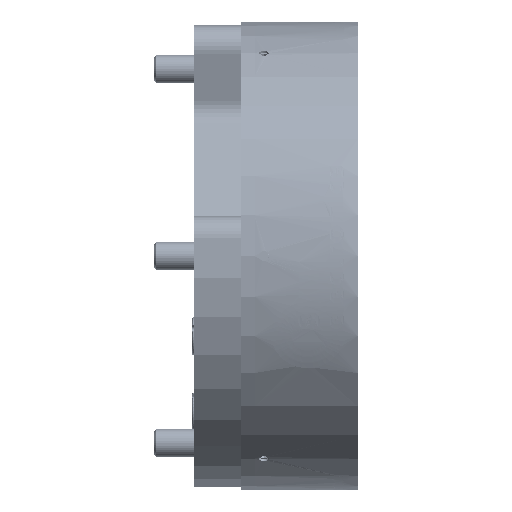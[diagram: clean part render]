
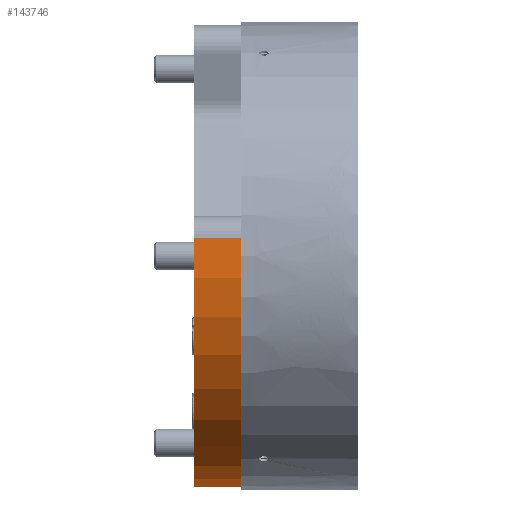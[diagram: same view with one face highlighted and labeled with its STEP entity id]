
A CAD part, front view. The second image highlights one B-rep face of the part: STEP entity #143746.
In plain terms, the highlighted cylindrical face has radius 49.5 mm (diameter 99 mm), a partial arc.
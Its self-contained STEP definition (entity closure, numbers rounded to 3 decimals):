
#6255 = DIRECTION ( 'NONE',  ( 0., -0.707, 0.707 ) ) ;
#9621 = CYLINDRICAL_SURFACE ( 'NONE', #266763, 49.5 ) ;
#28595 = EDGE_CURVE ( 'NONE', #311190, #107195, #87918, .T. ) ;
#70560 = VECTOR ( 'NONE', #255285, 1000. ) ;
#76303 = EDGE_CURVE ( 'NONE', #139026, #161559, #333770, .T. ) ;
#84175 = CARTESIAN_POINT ( 'NONE',  ( -3., -49.346, 3.907 ) ) ;
#87754 = DIRECTION ( 'NONE',  ( -1., 0., 0. ) ) ;
#87918 = LINE ( 'NONE', #113500, #125271 ) ;
#91465 = CARTESIAN_POINT ( 'NONE',  ( -13., 0., 0. ) ) ;
#94477 = CARTESIAN_POINT ( 'NONE',  ( -3., 0., 0. ) ) ;
#100126 = CARTESIAN_POINT ( 'NONE',  ( -13., -49.346, 3.907 ) ) ;
#107195 = VERTEX_POINT ( 'NONE', #298737 ) ;
#113500 = CARTESIAN_POINT ( 'NONE',  ( -13., 3.907, -49.346 ) ) ;
#113651 = DIRECTION ( 'NONE',  ( -1., 0., 0. ) ) ;
#114999 = EDGE_LOOP ( 'NONE', ( #242472, #187245, #191492, #305847 ) ) ;
#125271 = VECTOR ( 'NONE', #191902, 1000. ) ;
#139026 = VERTEX_POINT ( 'NONE', #84175 ) ;
#143746 = ADVANCED_FACE ( 'NONE', ( #243198 ), #9621, .T. ) ;
#145857 = AXIS2_PLACEMENT_3D ( 'NONE', #94477, #87754, #191743 ) ;
#161559 = VERTEX_POINT ( 'NONE', #309521 ) ;
#168868 = AXIS2_PLACEMENT_3D ( 'NONE', #91465, #195437, #273887 ) ;
#187245 = ORIENTED_EDGE ( 'NONE', *, *, #28595, .T. ) ;
#191492 = ORIENTED_EDGE ( 'NONE', *, *, #259052, .T. ) ;
#191743 = DIRECTION ( 'NONE',  ( 0., -0.707, 0.707 ) ) ;
#191902 = DIRECTION ( 'NONE',  ( 1., 0., 0. ) ) ;
#195437 = DIRECTION ( 'NONE',  ( -1., 0., 0. ) ) ;
#242472 = ORIENTED_EDGE ( 'NONE', *, *, #294436, .F. ) ;
#243198 = FACE_OUTER_BOUND ( 'NONE', #114999, .T. ) ;
#255285 = DIRECTION ( 'NONE',  ( -1., 0., 0. ) ) ;
#259052 = EDGE_CURVE ( 'NONE', #107195, #139026, #292855, .T. ) ;
#266763 = AXIS2_PLACEMENT_3D ( 'NONE', #296059, #113651, #6255 ) ;
#273887 = DIRECTION ( 'NONE',  ( 0., -0.707, 0.707 ) ) ;
#292855 = CIRCLE ( 'NONE', #145857, 49.5 ) ;
#294436 = EDGE_CURVE ( 'NONE', #311190, #161559, #315869, .T. ) ;
#296059 = CARTESIAN_POINT ( 'NONE',  ( -13., 0., 0. ) ) ;
#298737 = CARTESIAN_POINT ( 'NONE',  ( -3., 3.907, -49.346 ) ) ;
#305847 = ORIENTED_EDGE ( 'NONE', *, *, #76303, .T. ) ;
#306689 = CARTESIAN_POINT ( 'NONE',  ( -13., 3.907, -49.346 ) ) ;
#309521 = CARTESIAN_POINT ( 'NONE',  ( -13., -49.346, 3.907 ) ) ;
#311190 = VERTEX_POINT ( 'NONE', #306689 ) ;
#315869 = CIRCLE ( 'NONE', #168868, 49.5 ) ;
#333770 = LINE ( 'NONE', #100126, #70560 ) ;
